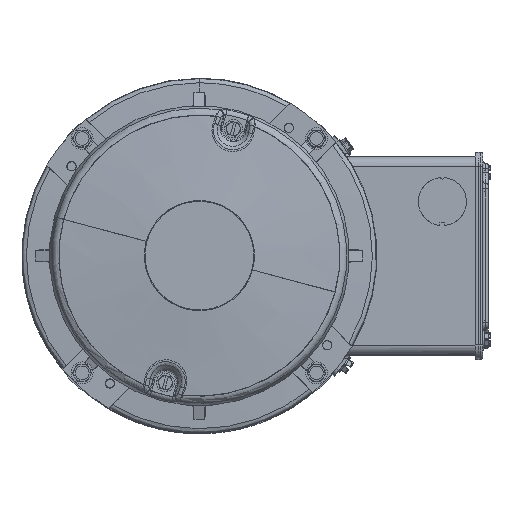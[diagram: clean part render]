
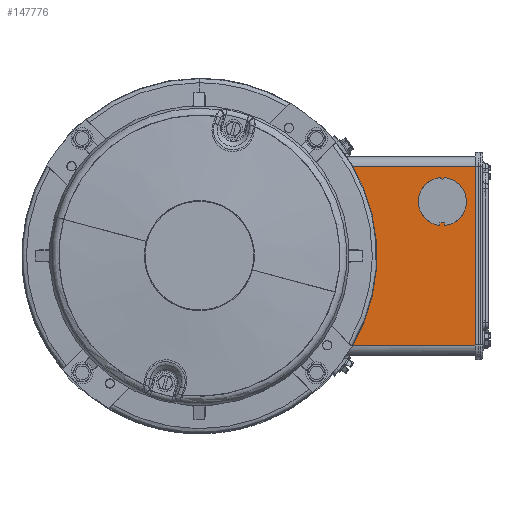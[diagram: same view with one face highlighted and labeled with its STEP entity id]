
A CAD part, top view. The second image highlights one B-rep face of the part: STEP entity #147776.
In plain terms, the highlighted planar face has unit normal (0, 0, 1).
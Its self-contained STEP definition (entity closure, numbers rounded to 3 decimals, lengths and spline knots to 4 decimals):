
#744 = ORIENTED_EDGE ( 'NONE', *, *, #93866, .T. ) ;
#1831 = CARTESIAN_POINT ( 'NONE',  ( 2.6873, 1.63, 12.0651 ) ) ;
#1953 = VERTEX_POINT ( 'NONE', #68113 ) ;
#3580 = CARTESIAN_POINT ( 'NONE',  ( 0., 0., 12.0651 ) ) ;
#3749 = VECTOR ( 'NONE', #70457, 39.3701 ) ;
#4285 = CARTESIAN_POINT ( 'NONE',  ( 2.8001, 1.63, 12.0651 ) ) ;
#6142 = VERTEX_POINT ( 'NONE', #136677 ) ;
#7783 = LINE ( 'NONE', #134308, #3749 ) ;
#11492 = CARTESIAN_POINT ( 'NONE',  ( 4.485, 0.605, 12.0651 ) ) ;
#12540 = CIRCLE ( 'NONE', #24207, 0.03 ) ;
#14742 = DIRECTION ( 'NONE',  ( -1., 0., 0. ) ) ;
#15645 = EDGE_CURVE ( 'NONE', #115408, #94053, #103835, .T. ) ;
#16534 = DIRECTION ( 'NONE',  ( 0., -1., 0. ) ) ;
#17489 = FACE_BOUND ( 'NONE', #120823, .T. ) ;
#18842 = EDGE_LOOP ( 'NONE', ( #21962, #129959, #53432, #27604 ) ) ;
#20714 = CIRCLE ( 'NONE', #56339, 3.24 ) ;
#21962 = ORIENTED_EDGE ( 'NONE', *, *, #95671, .F. ) ;
#24207 = AXIS2_PLACEMENT_3D ( 'NONE', #47469, #136923, #60271 ) ;
#24646 = ORIENTED_EDGE ( 'NONE', *, *, #119105, .T. ) ;
#26411 = ORIENTED_EDGE ( 'NONE', *, *, #63409, .T. ) ;
#26806 = ORIENTED_EDGE ( 'NONE', *, *, #72123, .T. ) ;
#27604 = ORIENTED_EDGE ( 'NONE', *, *, #52008, .T. ) ;
#30320 = PLANE ( 'NONE',  #88903 ) ;
#31570 = VECTOR ( 'NONE', #14742, 39.3701 ) ;
#31921 = EDGE_CURVE ( 'NONE', #6142, #94053, #109399, .T. ) ;
#34580 = EDGE_CURVE ( 'NONE', #37901, #118570, #77231, .T. ) ;
#35866 = ORIENTED_EDGE ( 'NONE', *, *, #34580, .F. ) ;
#36080 = EDGE_CURVE ( 'NONE', #68926, #127246, #7783, .T. ) ;
#37901 = VERTEX_POINT ( 'NONE', #57914 ) ;
#37949 = CARTESIAN_POINT ( 'NONE',  ( 4.44, 0.99, 12.0651 ) ) ;
#39468 = DIRECTION ( 'NONE',  ( 0., 0., 1. ) ) ;
#42279 = DIRECTION ( 'NONE',  ( 0., -1., 0. ) ) ;
#43056 = DIRECTION ( 'NONE',  ( 0., 0., 1. ) ) ;
#43547 = CARTESIAN_POINT ( 'NONE',  ( 0., -1.63, 12.0651 ) ) ;
#47469 = CARTESIAN_POINT ( 'NONE',  ( 4.44, 1.43, 12.0651 ) ) ;
#50355 = VECTOR ( 'NONE', #42279, 39.3701 ) ;
#50781 = DIRECTION ( 'NONE',  ( 0., -1., 0. ) ) ;
#52008 = EDGE_CURVE ( 'NONE', #6142, #166123, #91297, .T. ) ;
#53432 = ORIENTED_EDGE ( 'NONE', *, *, #31921, .F. ) ;
#56339 = AXIS2_PLACEMENT_3D ( 'NONE', #3580, #92898, #16534 ) ;
#56513 = CARTESIAN_POINT ( 'NONE',  ( 4.395, 0.5523, 12.0651 ) ) ;
#56963 = CARTESIAN_POINT ( 'NONE',  ( 5.14, 1.81, 12.0651 ) ) ;
#57020 = AXIS2_PLACEMENT_3D ( 'NONE', #37949, #127350, #50781 ) ;
#57914 = CARTESIAN_POINT ( 'NONE',  ( 4.41, 1.429, 12.0651 ) ) ;
#59510 = CARTESIAN_POINT ( 'NONE',  ( 4.395, 0.605, 12.0651 ) ) ;
#59977 = CARTESIAN_POINT ( 'NONE',  ( 4.44, 1.4, 12.0651 ) ) ;
#60271 = DIRECTION ( 'NONE',  ( 0., -1., 0. ) ) ;
#63409 = EDGE_CURVE ( 'NONE', #77057, #68926, #98419, .T. ) ;
#63616 = CARTESIAN_POINT ( 'NONE',  ( 4.44, 1.43, 12.0651 ) ) ;
#68063 = DIRECTION ( 'NONE',  ( 0., 1., 0. ) ) ;
#68113 = CARTESIAN_POINT ( 'NONE',  ( 4.47, 1.429, 12.0651 ) ) ;
#68926 = VERTEX_POINT ( 'NONE', #11492 ) ;
#70146 = CARTESIAN_POINT ( 'NONE',  ( 4.395, 0.5523, 12.0651 ) ) ;
#70457 = DIRECTION ( 'NONE',  ( -1., 0., 0. ) ) ;
#72123 = EDGE_CURVE ( 'NONE', #110521, #1953, #12540, .T. ) ;
#76487 = DIRECTION ( 'NONE',  ( 0., -1., 0. ) ) ;
#77057 = VERTEX_POINT ( 'NONE', #125560 ) ;
#77231 = CIRCLE ( 'NONE', #57020, 0.44 ) ;
#84273 = LINE ( 'NONE', #70146, #50355 ) ;
#88903 = AXIS2_PLACEMENT_3D ( 'NONE', #106040, #43056, #132501 ) ;
#89946 = CIRCLE ( 'NONE', #133395, 0.44 ) ;
#91297 = LINE ( 'NONE', #1831, #31570 ) ;
#92898 = DIRECTION ( 'NONE',  ( 0., 0., 1. ) ) ;
#93671 = CARTESIAN_POINT ( 'NONE',  ( 4.485, 0.5523, 12.0651 ) ) ;
#93866 = EDGE_CURVE ( 'NONE', #127246, #118570, #84273, .T. ) ;
#94053 = VERTEX_POINT ( 'NONE', #151282 ) ;
#94416 = VECTOR ( 'NONE', #68063, 39.3701 ) ;
#94926 = AXIS2_PLACEMENT_3D ( 'NONE', #63616, #153253, #76487 ) ;
#95671 = EDGE_CURVE ( 'NONE', #115408, #166123, #20714, .T. ) ;
#98419 = LINE ( 'NONE', #93671, #94416 ) ;
#102321 = CARTESIAN_POINT ( 'NONE',  ( 2.8001, -1.63, 12.0651 ) ) ;
#103835 = LINE ( 'NONE', #43547, #160109 ) ;
#106040 = CARTESIAN_POINT ( 'NONE',  ( 0., 0., 12.0651 ) ) ;
#109399 = LINE ( 'NONE', #56963, #165563 ) ;
#110521 = VERTEX_POINT ( 'NONE', #59977 ) ;
#110835 = ORIENTED_EDGE ( 'NONE', *, *, #36080, .T. ) ;
#115408 = VERTEX_POINT ( 'NONE', #102321 ) ;
#115976 = CARTESIAN_POINT ( 'NONE',  ( 4.44, 0.99, 12.0651 ) ) ;
#118570 = VERTEX_POINT ( 'NONE', #56513 ) ;
#119105 = EDGE_CURVE ( 'NONE', #37901, #110521, #152680, .T. ) ;
#120823 = EDGE_LOOP ( 'NONE', ( #120878, #26411, #110835, #744, #35866, #24646, #26806 ) ) ;
#120878 = ORIENTED_EDGE ( 'NONE', *, *, #152208, .F. ) ;
#125560 = CARTESIAN_POINT ( 'NONE',  ( 4.485, 0.5523, 12.0651 ) ) ;
#127246 = VERTEX_POINT ( 'NONE', #59510 ) ;
#127350 = DIRECTION ( 'NONE',  ( 0., 0., 1. ) ) ;
#128226 = DIRECTION ( 'NONE',  ( 1., 0., 0. ) ) ;
#128898 = DIRECTION ( 'NONE',  ( 0., -1., 0. ) ) ;
#129959 = ORIENTED_EDGE ( 'NONE', *, *, #15645, .T. ) ;
#132501 = DIRECTION ( 'NONE',  ( 0., -1., 0. ) ) ;
#133395 = AXIS2_PLACEMENT_3D ( 'NONE', #115976, #39468, #128898 ) ;
#134308 = CARTESIAN_POINT ( 'NONE',  ( 4.485, 0.605, 12.0651 ) ) ;
#136677 = CARTESIAN_POINT ( 'NONE',  ( 5.14, 1.63, 12.0651 ) ) ;
#136923 = DIRECTION ( 'NONE',  ( 0., 0., 1. ) ) ;
#147776 = ADVANCED_FACE ( 'NONE', ( #17489, #153560 ), #30320, .T. ) ;
#151282 = CARTESIAN_POINT ( 'NONE',  ( 5.14, -1.63, 12.0651 ) ) ;
#152208 = EDGE_CURVE ( 'NONE', #77057, #1953, #89946, .T. ) ;
#152680 = CIRCLE ( 'NONE', #94926, 0.03 ) ;
#153253 = DIRECTION ( 'NONE',  ( 0., 0., 1. ) ) ;
#153560 = FACE_OUTER_BOUND ( 'NONE', #18842, .T. ) ;
#159427 = DIRECTION ( 'NONE',  ( 0., -1., 0. ) ) ;
#160109 = VECTOR ( 'NONE', #128226, 39.3701 ) ;
#165563 = VECTOR ( 'NONE', #159427, 39.3701 ) ;
#166123 = VERTEX_POINT ( 'NONE', #4285 ) ;
